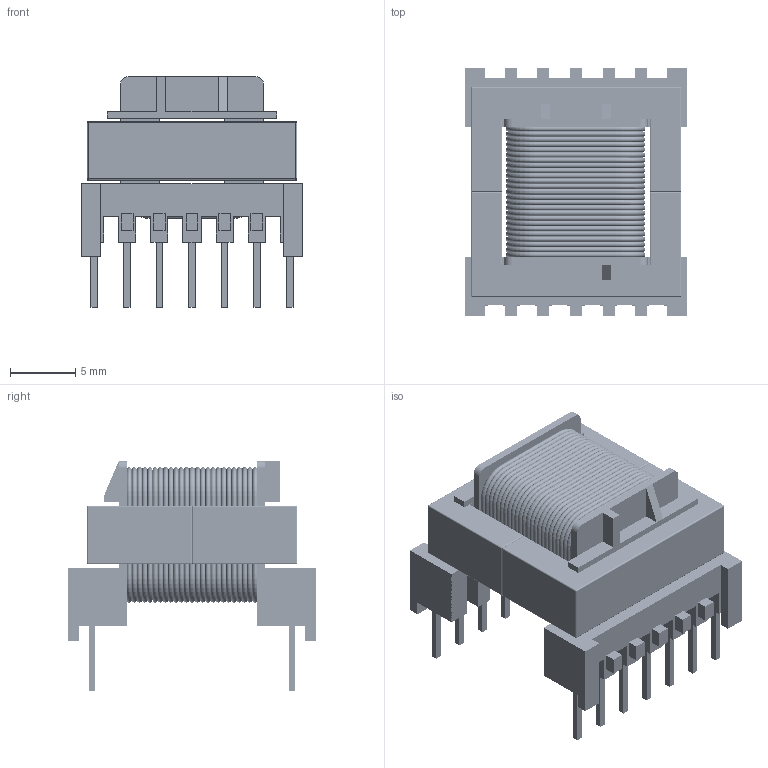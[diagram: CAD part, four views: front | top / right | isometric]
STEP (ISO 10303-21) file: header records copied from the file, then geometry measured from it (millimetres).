
FILE_DESCRIPTION(('FreeCAD Model'),'2;1');
FILE_NAME('Open CASCADE Shape Model','2026-03-04T11:40:53',(''),(''), 'Open CASCADE STEP processor 7.8','FreeCAD','Unknown');
FILE_SCHEMA(('AUTOMOTIVE_DESIGN { 1 0 10303 214 1 1 1 1 }'));
Length unit declared in the file: millimetre
Products named in the file (45): EF16_K_H_14P_15_P1623; Bobbin; Pin001; Pin002; Pin003; Pin004; Pin005; Pin006; Pin007; Pin008; Pin009; Pin010; Pin011; Pin012; Pin013; Pin014; Assembly; E16-8-5Core001; E16-8-5Core002; Uzwojenie; Uzwojenie001; Uzwojenie002; Uzwojenie003; Uzwojenie004; Uzwojenie005; Uzwojenie006; Uzwojenie007; Uzwojenie008; Uzwojenie009; Uzwojenie010; Uzwojenie011; Uzwojenie012; Uzwojenie013; Uzwojenie014; Uzwojenie015; Uzwojenie016; Uzwojenie017; Uzwojenie018; Uzwojenie019; Uzwojenie020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
Assembly tree (44 placements, depth 3):
  EF16_K_H_14P_15_P1623
    Bobbin
    Pin001
    Pin002
    Pin003
    Pin004
    Pin005
    Pin006
    Pin007
    Pin008
    Pin009
    Pin010
    Pin011
    Pin012
    Pin013
    Pin014
    Assembly
      E16-8-5Core001
      E16-8-5Core002
      Uzwojenie
      Uzwojenie001
      Uzwojenie002
      Uzwojenie003
      Uzwojenie004
      Uzwojenie005
      Uzwojenie006
      Uzwojenie007
      Uzwojenie008
      Uzwojenie009
      Uzwojenie010
      Uzwojenie011
      Uzwojenie012
      Uzwojenie013
      Uzwojenie014
      Uzwojenie015
      Uzwojenie016
      Uzwojenie017
      Uzwojenie018
      Uzwojenie019
      Uzwojenie020
      Uzwojenie021
      Uzwojenie022
      Uzwojenie023
      Uzwojenie024
      Uzwojenie025
Bounding box: 17 x 19 x 17.7 mm (x, y, z)
Volume: 2004 mm3; surface area: 8140 mm2
Topology: 43 solids, 43 shells, 3477 faces, 7977 edges, 4524 vertices
Faces by surface type: cylinder 2030, torus 1056, plane 359, sphere 32
Entity records: 99986 total; most frequent: DIRECTION 19039, CARTESIAN_POINT 18565, ORIENTED_EDGE 15890, AXIS2_PLACEMENT_3D 8066, EDGE_CURVE 7945, CIRCLE 4544, VERTEX_POINT 4524, FACE_BOUND 3501
